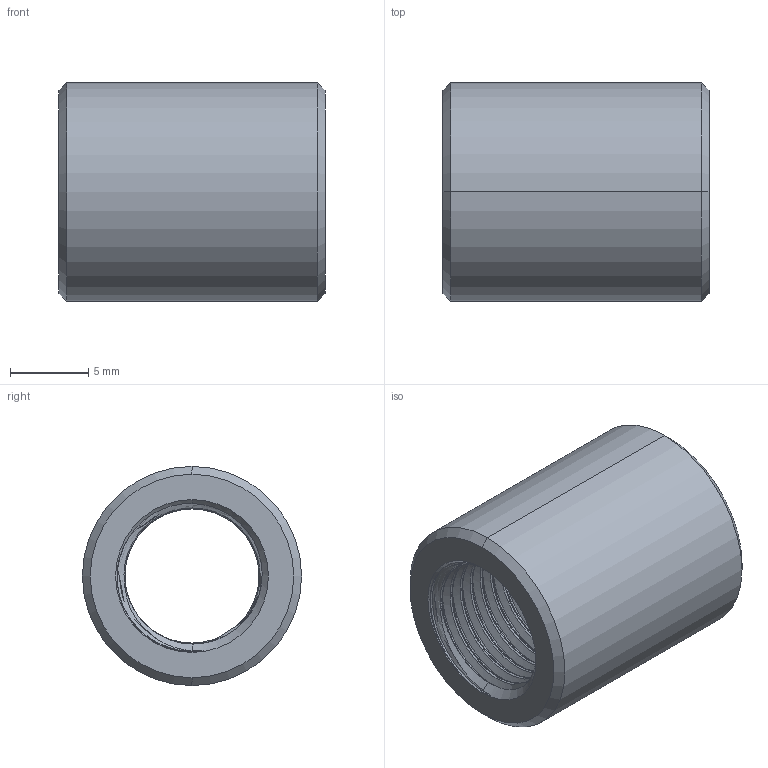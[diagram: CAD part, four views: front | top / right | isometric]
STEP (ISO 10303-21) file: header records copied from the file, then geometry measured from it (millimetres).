
FILE_DESCRIPTION (( 'STEP AP214' ), '1' );
FILE_NAME ('JIS-socket-straight_6A.STEP', '2022-04-26T06:29:28', ( 'ASIS User' ), ( 'ASIS User' ), 'SwSTEP 2.0', 'SolidWorks 2022', '' );
FILE_SCHEMA (( 'AUTOMOTIVE_DESIGN' ));
Length unit declared in the file: millimetre
Products named in the file (1): JIS-socket-straight_6A
Bounding box: 17 x 14 x 14 mm (x, y, z)
Volume: 1484.3 mm3; surface area: 1712 mm2
Topology: 1 solids, 1 shells, 55 faces, 155 edges, 102 vertices
Faces by surface type: cylinder 38, cone 9, bspline 6, plane 2
Entity records: 11170 total; most frequent: CARTESIAN_POINT 9985, ORIENTED_EDGE 310, DIRECTION 174, EDGE_CURVE 155, VERTEX_POINT 102, AXIS2_PLACEMENT_3D 64, EDGE_LOOP 57, FACE_OUTER_BOUND 55
